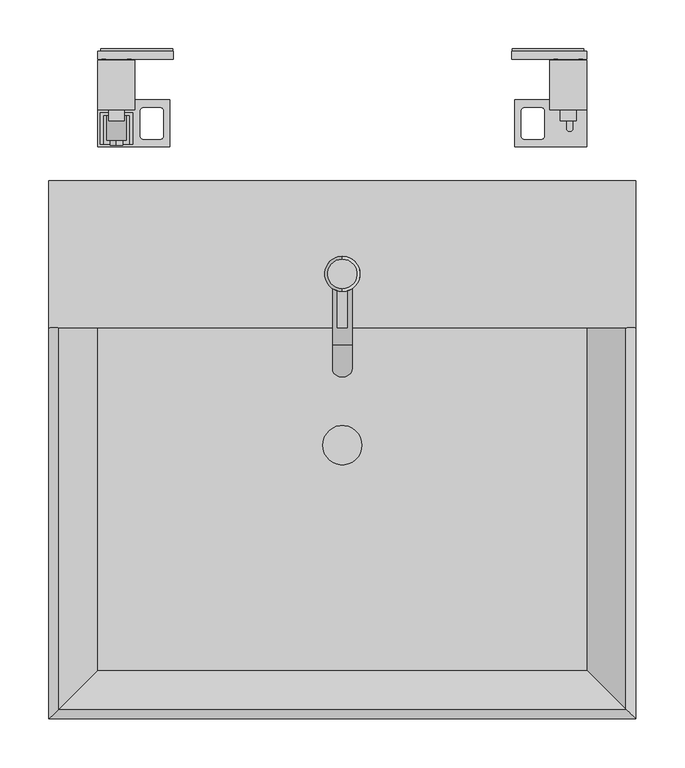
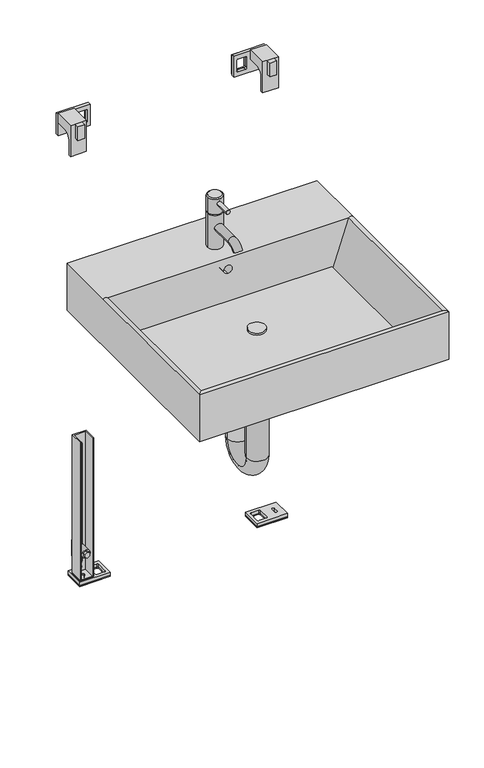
"""IFC4 building model written with IfcOpenShell, lengths in millimetres: flow terminal geometry, nextVIT Waschtisch-Element Wasserzählerstrecke WZ2 Rotguss : nextVIT Waschtisch-Element Wasserzählerstrecke WZ2 Rotguss."""

from ifc_helpers import new_model, si_unit, point, frame, frame_2d, origin, origin_with_axes, place, context, project, spatial, polyline, circle_curve, ellipse_curve, trimmed, segment, composite_curve, outline, extrude, source, transform, mapped, element, save
from ifc_brep_helpers import plane_surface, cylinder_surface, revolved_surface, advanced_brep


def flow_terminal_0b231f3f(model_context):
    return source(origin(), model_context, "Body", "SolidModel", [
        advanced_brep(
        [(0.0, -245.0, 989.0), (0.0, -215.0, 989.0), (18.0, -230.0, 860.0), (-18.0, -230.0, 860.0), (-18.0, -230.0, 946.0), (0.0, -212.0, 946.0), (18.0, -230.0, 946.0), (18.0, -230.0, 986.0), (18.0, -230.0, 949.0), (0.0, -212.0, 949.0), (-18.0, -230.0, 949.0), (-18.0, -230.0, 986.0), (0.0, -212.0, 986.0), (0.0, -248.0, 946.0), (0.0, -248.0, 986.0), (0.0, -248.0, 949.0), (0.0, -245.0, 949.0), (0.0, -215.0, 949.0), (0.0, -245.0, 946.0), (0.0, -215.0, 946.0)],
        [
            (0, 1, circle_curve(frame((0.0, -230.0, 989.0), z_axis=(0.0, 0.0, 1.0), x_axis=(0.0, 1.0, 0.0)), 15.0)),
            (1, 0, circle_curve(frame((0.0, -230.0, 989.0), z_axis=(0.0, 0.0, 1.0), x_axis=(0.0, 1.0, 0.0)), 15.0)),
            (2, 3, circle_curve(frame((0.0, -230.0, 860.0), z_axis=(0.0, 0.0, -1.0), x_axis=(-1.0, 0.0, 0.0)), 18.0)),
            (3, 2, circle_curve(frame((0.0, -230.0, 860.0), z_axis=(0.0, 0.0, -1.0), x_axis=(-1.0, 0.0, 0.0)), 18.0)),
            (3, 4),
            (4, 5, circle_curve(frame((0.0, -230.0, 946.0), z_axis=(0.0, 0.0, -1.0), x_axis=(-1.0, 0.0, 0.0)), 18.0)),
            (5, 6, circle_curve(frame((0.0, -230.0, 946.0), z_axis=(0.0, 0.0, -1.0), x_axis=(-1.0, 0.0, 0.0)), 18.0)),
            (6, 2),
            (7, 8),
            (8, 9, circle_curve(frame((0.0, -230.0, 949.0), z_axis=(0.0, 0.0, 1.0), x_axis=(-1.0, 0.0, 0.0)), 18.0)),
            (9, 10, circle_curve(frame((0.0, -230.0, 949.0), z_axis=(0.0, 0.0, 1.0), x_axis=(-1.0, 0.0, 0.0)), 18.0)),
            (10, 11),
            (11, 12, circle_curve(frame((0.0, -230.0, 986.0), z_axis=(0.0, 0.0, -1.0), x_axis=(-1.0, 0.0, 0.0)), 18.0)),
            (12, 7, circle_curve(frame((0.0, -230.0, 986.0), z_axis=(0.0, 0.0, -1.0), x_axis=(-1.0, 0.0, 0.0)), 18.0)),
            (6, 13, circle_curve(frame((0.0, -230.0, 946.0), z_axis=(0.0, 0.0, -1.0), x_axis=(-1.0, 0.0, 0.0)), 18.0)),
            (13, 4, circle_curve(frame((0.0, -230.0, 946.0), z_axis=(0.0, 0.0, -1.0), x_axis=(-1.0, 0.0, 0.0)), 18.0)),
            (7, 14, circle_curve(frame((0.0, -230.0, 986.0), z_axis=(0.0, 0.0, -1.0), x_axis=(-1.0, 0.0, 0.0)), 18.0)),
            (14, 11, circle_curve(frame((0.0, -230.0, 986.0), z_axis=(0.0, 0.0, -1.0), x_axis=(-1.0, 0.0, 0.0)), 18.0)),
            (10, 15, circle_curve(frame((0.0, -230.0, 949.0), z_axis=(0.0, 0.0, 1.0), x_axis=(-1.0, 0.0, 0.0)), 18.0)),
            (15, 8, circle_curve(frame((0.0, -230.0, 949.0), z_axis=(0.0, 0.0, 1.0), x_axis=(-1.0, 0.0, 0.0)), 18.0)),
            (15, 16),
            (16, 17, circle_curve(frame((0.0, -230.0, 949.0), z_axis=(0.0, 0.0, 1.0), x_axis=(0.0, 1.0, 0.0)), 15.0)),
            (17, 9),
            (17, 16, circle_curve(frame((0.0, -230.0, 949.0), z_axis=(0.0, 0.0, 1.0), x_axis=(0.0, 1.0, 0.0)), 15.0)),
            (18, 13),
            (5, 19),
            (19, 18, circle_curve(frame((0.0, -230.0, 946.0), z_axis=(0.0, 0.0, -1.0), x_axis=(0.0, 1.0, 0.0)), 15.0)),
            (18, 19, circle_curve(frame((0.0, -230.0, 946.0), z_axis=(0.0, 0.0, -1.0), x_axis=(0.0, 1.0, 0.0)), 15.0)),
            (16, 18),
            (19, 17),
            (0, 14),
            (12, 1),
        ],
        [
            plane_surface(frame((-18.0, -230.0, 989.0), z_axis=(0.0, 0.0, 1.0), x_axis=(0.0, -1.0, 0.0))),
            plane_surface(frame((-18.0, -230.0, 860.0), z_axis=(0.0, 0.0, -1.0), x_axis=(0.0, 1.0, 0.0))),
            cylinder_surface(frame((0.0, -230.0, 860.0), z_axis=(0.0, 0.0, 1.0), x_axis=(-1.0, 0.0, 0.0)), 18.0),
            plane_surface(frame((0.0, -230.0, 949.0), z_axis=(0.0, 0.0, -1.0), x_axis=(0.0, 1.0, 0.0))),
            plane_surface(frame((0.0, -230.0, 946.0), z_axis=(0.0, 0.0, 1.0), x_axis=(0.0, 1.0, 0.0))),
            cylinder_surface(frame((0.0, -230.0, 2498.4), z_axis=(0.0, 0.0, -1.0), x_axis=(0.0, 1.0, 0.0)), 15.0),
            revolved_surface(polyline([(0.0, -215.0, 989.0), (0.0, -212.0, 986.0)]), (0.0, -230.0, 2498.4), (0.0, 0.0, -1.0)),
        ],
        [
            (0, [[1, 2]]),
            (1, [[3, 4]]),
            (2, [[-4, 5, 6, 7, 8]]),
            (2, [[9, 10, 11, 12, 13, 14]]),
            (2, [[-3, -8, 15, 16, -5]]),
            (2, [[-9, 17, 18, -12, 19, 20]]),
            (3, [[21, 22, 23, -10, -20]]),
            (3, [[-21, -19, -11, -23, 24]]),
            (4, [[25, -15, -7, 26, 27]]),
            (4, [[-25, 28, -26, -6, -16]]),
            (5, [[-22, 29, -27, 30]]),
            (5, [[-24, -30, -28, -29]]),
            (6, [[31, -17, -14, 32, -1]]),
            (6, [[-31, -2, -32, -13, -18]]),
        ],
    ),
        advanced_brep(
        [(10.0, -230.0, 914.1831887), (-10.0, -230.0, 914.1831887), (10.0, -302.3523429, 914.1831887), (-10.0, -302.3523429, 914.1831887), (10.0, -327.1123284, 901.122584), (-10.0, -327.1123284, 901.122584)],
        [
            (0, 1, circle_curve(frame((0.0, -230.0, 914.1831887), z_axis=(0.0, 1.0, 0.0), x_axis=(-1.0, 0.0, 0.0)), 10.0)),
            (1, 0, circle_curve(frame((0.0, -230.0, 914.1831887), z_axis=(0.0, 1.0, 0.0), x_axis=(-1.0, 0.0, 0.0)), 10.0)),
            (0, 2),
            (2, 3, circle_curve(frame((0.0, -302.3523429, 914.1831887), z_axis=(0.0, 1.0, 0.0), x_axis=(-1.0, 0.0, 0.0)), 10.0)),
            (3, 1),
            (3, 2, circle_curve(frame((0.0, -302.3523429, 914.1831887), z_axis=(0.0, 1.0, 0.0), x_axis=(-1.0, 0.0, 0.0)), 10.0)),
            (4, 5, circle_curve(frame((0.0, -327.1123284, 901.122584), z_axis=(0.0, -0.5646465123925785, -0.8253328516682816), x_axis=(-1.0, 0.0, 0.0)), 10.0)),
            (5, 4, circle_curve(frame((0.0, -327.1123284, 901.122584), z_axis=(0.0, -0.5646465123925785, -0.8253328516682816), x_axis=(-1.0, 0.0, 0.0)), 10.0)),
            (5, 3, circle_curve(frame((-10.0, -302.3523429, 884.1831887), z_axis=(-1.0, 0.0, 0.0), x_axis=(0.0, 0.0, 1.0)), 30.0)),
            (2, 4, circle_curve(frame((10.0, -302.3523429, 884.1831887), z_axis=(1.0, 0.0, 0.0), x_axis=(0.0, 0.0, 1.0)), 30.0)),
        ],
        [
            plane_surface(frame((0.0, -230.0, 914.1831887), z_axis=(0.0, 1.0, 0.0), x_axis=(-1.0, 0.0, 0.0))),
            cylinder_surface(frame((0.0, -230.0, 914.1831887), z_axis=(0.0, 1.0, 0.0), x_axis=(-1.0, 0.0, 0.0)), 10.0),
            plane_surface(frame((0.0, -327.1123284, 901.122584), z_axis=(0.0, -0.5646465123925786, -0.8253328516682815), x_axis=(-1.0, 0.0, 0.0))),
            revolved_surface(trimmed(ellipse_curve(frame((0.0, -302.3523429, 914.1831887), z_axis=(0.0, 1.0, 0.0), x_axis=(-1.0, 0.0, 0.0)), 10.0, 10.0), [point((10.0, -302.3523429, 914.1831887))], [point((-10.0, -302.3523429, 914.1831887))], True, "CARTESIAN"), (0.0, -302.3523429, 884.1831887), (1.0, 0.0, 0.0)),
            revolved_surface(trimmed(ellipse_curve(frame((0.0, -302.3523429, 914.1831887), z_axis=(0.0, 1.0, 0.0), x_axis=(-1.0, 0.0, 0.0)), 10.0, 10.0), [point((-10.0, -302.3523429, 914.1831887))], [point((10.0, -302.3523429, 914.1831887))], True, "CARTESIAN"), (0.0, -302.3523429, 884.1831887), (1.0, 0.0, 0.0)),
        ],
        [
            (0, [[1, 2]]),
            (1, [[-1, 3, 4, 5]]),
            (1, [[-2, -5, 6, -3]]),
            (2, [[7, 8]]),
            (3, [[9, -4, 10, -8]]),
            (4, [[-10, -6, -9, -7]]),
        ],
    ),
        extrude(outline(composite_curve([segment(trimmed(circle_curve(frame_2d((975.4905764, 0.0)), 5.0), [point((975.4905764, -5.0))], [point((975.4905764, 5.0))], False, "CARTESIAN"), True, "CONTINUOUS"), segment(trimmed(circle_curve(frame_2d((975.4905764, 0.0)), 5.0), [point((975.4905764, 5.0))], [point((975.4905764, -5.0))], False, "CARTESIAN"), True, "CONTINUOUS")], self_intersect=False)), frame((0.0, -285.0, 0.0), z_axis=(0.0, 1.0, 0.0), x_axis=(0.0, 0.0, 1.0)), (0.0, 0.0, 1.0), 55.0),
        extrude(outline(composite_curve([segment(trimmed(circle_curve(frame_2d((0.0, -405.0)), 20.0), [point((-20.0, -405.0))], [point((20.0, -405.0))], False, "CARTESIAN"), True, "CONTINUOUS"), segment(trimmed(circle_curve(frame_2d((0.0, -405.0)), 20.0), [point((20.0, -405.0))], [point((-20.0, -405.0))], False, "CARTESIAN"), True, "CONTINUOUS")], self_intersect=False)), frame((0.0, 0.0, 750.0), z_axis=(0.0, 0.0, 1.0), x_axis=(1.0, 0.0, 0.0)), (0.0, 0.0, 1.0), 5.0),
        advanced_brep(
        [(-25.0, -405.0, 740.0), (25.0, -405.0, 740.0), (-25.0, -405.0, 433.2), (25.0, -405.0, 433.2), (25.0, -325.0, 433.2), (-25.0, -325.0, 433.2), (-25.0, -325.0, 483.2), (25.0, -325.0, 483.2), (25.0, -285.0, 523.2), (-25.0, -285.0, 523.2), (-25.0, -135.0, 523.2), (25.0, -135.0, 523.2)],
        [
            (0, 1, circle_curve(frame((0.0, -405.0, 740.0), z_axis=(0.0, 0.0, 1.0), x_axis=(1.0, 0.0, 0.0)), 25.0)),
            (1, 0, circle_curve(frame((0.0, -405.0, 740.0), z_axis=(0.0, 0.0, 1.0), x_axis=(1.0, 0.0, 0.0)), 25.0)),
            (0, 2),
            (2, 3, circle_curve(frame((0.0, -405.0, 433.2), z_axis=(0.0, 0.0, 1.0), x_axis=(1.0, 0.0, 0.0)), 25.0)),
            (3, 1),
            (3, 2, circle_curve(frame((0.0, -405.0, 433.2), z_axis=(0.0, 0.0, 1.0), x_axis=(1.0, 0.0, 0.0)), 25.0)),
            (4, 3, circle_curve(frame((25.0, -365.0, 433.2), z_axis=(-1.0, 0.0, 0.0), x_axis=(0.0, -1.0, 0.0)), 40.0)),
            (2, 5, circle_curve(frame((-25.0, -365.0, 433.2), z_axis=(1.0, 0.0, 0.0), x_axis=(0.0, -1.0, 0.0)), 40.0)),
            (5, 4, circle_curve(frame((0.0, -325.0, 433.2), z_axis=(0.0, 0.0, -1.0), x_axis=(1.0, 0.0, 0.0)), 25.0)),
            (4, 5, circle_curve(frame((0.0, -325.0, 433.2), z_axis=(0.0, 0.0, -1.0), x_axis=(1.0, 0.0, 0.0)), 25.0)),
            (5, 6),
            (6, 7, circle_curve(frame((0.0, -325.0, 483.2), z_axis=(0.0, 0.0, -1.0), x_axis=(1.0, 0.0, 0.0)), 25.0)),
            (7, 4),
            (7, 6, circle_curve(frame((0.0, -325.0, 483.2), z_axis=(0.0, 0.0, -1.0), x_axis=(1.0, 0.0, 0.0)), 25.0)),
            (8, 7, circle_curve(frame((25.0, -285.0, 483.2), z_axis=(1.0, 0.0, 0.0), x_axis=(0.0, -1.0, 0.0)), 40.0)),
            (6, 9, circle_curve(frame((-25.0, -285.0, 483.2), z_axis=(-1.0, 0.0, 0.0), x_axis=(0.0, -1.0, 0.0)), 40.0)),
            (9, 8, circle_curve(frame((0.0, -285.0, 523.2), z_axis=(0.0, -1.0, 0.0), x_axis=(1.0, 0.0, 0.0)), 25.0)),
            (8, 9, circle_curve(frame((0.0, -285.0, 523.2), z_axis=(0.0, -1.0, 0.0), x_axis=(1.0, 0.0, 0.0)), 25.0)),
            (10, 11, circle_curve(frame((0.0, -135.0, 523.2), z_axis=(0.0, 1.0, 0.0), x_axis=(1.0, 0.0, 0.0)), 25.0)),
            (11, 10, circle_curve(frame((0.0, -135.0, 523.2), z_axis=(0.0, 1.0, 0.0), x_axis=(1.0, 0.0, 0.0)), 25.0)),
            (9, 10),
            (11, 8),
        ],
        [
            plane_surface(frame((0.0, -405.0, 740.0), z_axis=(0.0, 0.0, 1.0), x_axis=(1.0, 0.0, 0.0))),
            cylinder_surface(frame((0.0, -405.0, 740.0), z_axis=(0.0, 0.0, 1.0), x_axis=(1.0, 0.0, 0.0)), 25.0),
            revolved_surface(trimmed(ellipse_curve(frame((0.0, -405.0, 433.2), z_axis=(0.0, 0.0, 1.0), x_axis=(1.0, 0.0, 0.0)), 25.0, 25.0), [point((-25.0, -405.0, 433.2))], [point((25.0, -405.0, 433.2))], True, "CARTESIAN"), (0.0, -365.0, 433.2), (1.0, 0.0, 0.0)),
            revolved_surface(trimmed(ellipse_curve(frame((0.0, -405.0, 433.2), z_axis=(0.0, 0.0, 1.0), x_axis=(1.0, 0.0, 0.0)), 25.0, 25.0), [point((25.0, -405.0, 433.2))], [point((-25.0, -405.0, 433.2))], True, "CARTESIAN"), (0.0, -365.0, 433.2), (1.0, 0.0, 0.0)),
            cylinder_surface(frame((0.0, -325.0, 433.2), z_axis=(0.0, 0.0, -1.0), x_axis=(1.0, 0.0, 0.0)), 25.0),
            revolved_surface(trimmed(ellipse_curve(frame((0.0, -325.0, 483.2), z_axis=(0.0, 0.0, -1.0), x_axis=(1.0, 0.0, 0.0)), 25.0, 25.0), [point((-25.0, -325.0, 483.2))], [point((25.0, -325.0, 483.2))], True, "CARTESIAN"), (0.0, -285.0, 483.2), (-1.0, 0.0, 0.0)),
            revolved_surface(trimmed(ellipse_curve(frame((0.0, -325.0, 483.2), z_axis=(0.0, 0.0, -1.0), x_axis=(1.0, 0.0, 0.0)), 25.0, 25.0), [point((25.0, -325.0, 483.2))], [point((-25.0, -325.0, 483.2))], True, "CARTESIAN"), (0.0, -285.0, 483.2), (-1.0, 0.0, 0.0)),
            plane_surface(frame((0.0, -135.0, 523.2), z_axis=(0.0, 1.0, 0.0), x_axis=(1.0, 0.0, 0.0))),
            cylinder_surface(frame((0.0, -285.0, 523.2), z_axis=(0.0, -1.0, 0.0), x_axis=(1.0, 0.0, 0.0)), 25.0),
        ],
        [
            (0, [[1, 2]]),
            (1, [[-1, 3, 4, 5]]),
            (1, [[-2, -5, 6, -3]]),
            (2, [[7, -4, 8, 9]]),
            (3, [[-8, -6, -7, 10]]),
            (4, [[-9, 11, 12, 13]]),
            (4, [[-10, -13, 14, -11]]),
            (5, [[15, -12, 16, 17]]),
            (6, [[-16, -14, -15, 18]]),
            (7, [[19, 20]]),
            (8, [[-17, 21, -20, 22]]),
            (8, [[-18, -22, -19, -21]]),
        ],
    ),
        advanced_brep(
        [(-300.0, -135.0, 860.0), (-300.0, -135.0, 740.0), (-300.0, -685.0, 740.0), (-300.0, -685.0, 860.0), (-300.0, -285.0, 860.0), (300.0, -135.0, 860.0), (300.0, -285.0, 860.0), (300.0, -685.0, 860.0), (300.0, -685.0, 740.0), (300.0, -135.0, 740.0), (-290.0, -285.0, 860.0), (290.0, -285.0, 860.0), (-250.0, -285.0, 740.0), (250.0, -285.0, 740.0), (0.0, -285.0, 840.3782299), (0.0, -285.0, 820.3782299), (-250.0, -635.0, 740.0), (250.0, -635.0, 740.0), (-290.0, -675.0, 860.0), (290.0, -675.0, 860.0), (0.0, -177.2094326, 840.3782299), (0.0, -177.2094326, 820.3782299)],
        [
            (0, 1),
            (1, 2),
            (2, 3),
            (3, 4),
            (4, 0),
            (5, 6),
            (6, 7),
            (7, 8),
            (8, 9),
            (9, 5),
            (4, 10),
            (10, 11),
            (11, 6),
            (5, 0),
            (10, 12),
            (12, 13),
            (13, 11),
            (14, 15, circle_curve(frame((0.0, -285.0, 830.3782299), z_axis=(0.0, 1.0, 0.0), x_axis=(0.0, 0.0, -1.0)), 10.0)),
            (15, 14, circle_curve(frame((0.0, -285.0, 830.3782299), z_axis=(0.0, 1.0, 0.0), x_axis=(0.0, 0.0, -1.0)), 10.0)),
            (1, 9),
            (8, 2),
            (12, 16),
            (16, 17),
            (17, 13),
            (4, 10, circle_curve(frame((-295.0, -285.0, 852.6162401), z_axis=(0.0, 1.0, 0.0), x_axis=(1.0, 0.0, 0.0)), 8.9173937)),
            (10, 18),
            (18, 16),
            (7, 3),
            (18, 19),
            (19, 17),
            (11, 6, circle_curve(frame((295.0, -285.0, 852.6162401), z_axis=(0.0, 1.0, 0.0), x_axis=(-1.0, 0.0, 0.0)), 8.9173937)),
            (19, 11),
            (3, 18, ellipse_curve(frame((-295.0, -680.0, 852.6162401), z_axis=(-0.7071067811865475, 0.7071067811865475, 0.0), x_axis=(0.7071067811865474, 0.7071067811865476, 0.0)), 12.6110991, 8.9173937)),
            (7, 19, ellipse_curve(frame((295.0, -680.0, 852.6162401), z_axis=(-0.7071067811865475, -0.7071067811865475, 0.0), x_axis=(-0.7071067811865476, 0.7071067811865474, 0.0)), 12.6110991, 8.9173937)),
            (20, 21, circle_curve(frame((0.0, -177.2094326, 830.3782299), z_axis=(0.0, -1.0, 0.0), x_axis=(0.0, 0.0, -1.0)), 10.0)),
            (21, 20, circle_curve(frame((0.0, -177.2094326, 830.3782299), z_axis=(0.0, -1.0, 0.0), x_axis=(0.0, 0.0, -1.0)), 10.0)),
            (21, 15),
            (14, 20),
        ],
        [
            plane_surface(frame((-300.0, -285.0, 860.0), z_axis=(-1.0, 0.0, 0.0), x_axis=(0.0, 1.0, 0.0))),
            plane_surface(frame((300.0, -285.0, 860.0), z_axis=(1.0, 0.0, 0.0), x_axis=(0.0, -1.0, 0.0))),
            plane_surface(frame((300.0, -135.0, 860.0), z_axis=(0.0, 0.0, 1.0), x_axis=(-1.0, 0.0, 0.0))),
            plane_surface(frame((300.0, -285.0, 860.0), z_axis=(0.0, -1.0, 0.0), x_axis=(-1.0, 0.0, 0.0))),
            plane_surface(frame((300.0, -285.0, 740.0), z_axis=(0.0, 0.0, -1.0), x_axis=(-1.0, 0.0, 0.0))),
            plane_surface(frame((300.0, -135.0, 740.0), z_axis=(0.0, 1.0, 0.0), x_axis=(-1.0, 0.0, 0.0))),
            plane_surface(frame((-300.0, -285.0, 800.0), z_axis=(0.0, 1.0, 0.0), x_axis=(0.0, 0.0, 1.0))),
            plane_surface(frame((-290.0, -285.0, 860.0), z_axis=(0.9486832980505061, 0.0, 0.31622776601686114), x_axis=(0.0, -1.0, 0.0))),
            plane_surface(frame((-300.0, -685.0, 740.0), z_axis=(0.0, -1.0, 0.0), x_axis=(1.0, 0.0, 0.0))),
            plane_surface(frame((-290.0, -675.0, 860.0), z_axis=(0.0, 0.9486832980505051, 0.31622776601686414), x_axis=(1.0, 0.0, 0.0))),
            plane_surface(frame((300.0, -285.0, 800.0), z_axis=(0.0, 1.0, 0.0), x_axis=(0.0, 0.0, 1.0))),
            plane_surface(frame((290.0, -675.0, 860.0), z_axis=(-0.9486832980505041, 0.0, 0.31622776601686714), x_axis=(0.0, 1.0, 0.0))),
            cylinder_surface(frame((-295.0, -285.0, 852.6162401), z_axis=(0.0, 1.0, 0.0), x_axis=(1.0, 0.0, 0.0)), 8.9173937),
            cylinder_surface(frame((-300.0, -680.0, 852.6162401), z_axis=(-1.0, 0.0, 0.0), x_axis=(0.0, 1.0, 0.0)), 8.9173937),
            cylinder_surface(frame((295.0, -685.0, 852.6162401), z_axis=(0.0, -1.0, 0.0), x_axis=(-1.0, 0.0, 0.0)), 8.9173937),
            plane_surface(frame((0.0, -177.2094326, 820.3782299), z_axis=(0.0, -1.0, 0.0), x_axis=(-1.0, 0.0, 0.0))),
            revolved_surface(polyline([(0.0, -177.2094326, 820.3782299), (0.0, -285.0, 820.3782299)]), (0.0, -285.0, 830.3782299), (0.0, 1.0, 0.0)),
        ],
        [
            (0, [[1, 2, 3, 4, 5]]),
            (1, [[6, 7, 8, 9, 10]]),
            (2, [[-5, 11, 12, 13, -6, 14]]),
            (3, [[-12, 15, 16, 17], [18, 19]]),
            (4, [[20, -9, 21, -2], [22, 23, 24, -16]]),
            (5, [[-1, -14, -10, -20]]),
            (6, [[25, -11]]),
            (7, [[26, 27, -22, -15]]),
            (8, [[-3, -21, -8, 28]]),
            (9, [[-27, 29, 30, -23]]),
            (10, [[31, -13]]),
            (11, [[-24, -30, 32, -17]]),
            (12, [[-25, -4, 33, -26]]),
            (13, [[-28, 34, -29, -33]]),
            (14, [[-31, -32, -34, -7]]),
            (15, [[35, 36]]),
            (16, [[-36, 37, -18, 38]]),
            (16, [[-35, -38, -19, -37]]),
        ],
    ),
        extrude(outline(polyline([(250.0, -285.0), (250.0, -635.0), (-250.0, -635.0), (-250.0, -285.0), (250.0, -285.0)])), frame((0.0, 0.0, 740.0), z_axis=(0.0, 0.0, 1.0), x_axis=(1.0, 0.0, 0.0)), (0.0, 0.0, 1.0), 10.0),
        extrude(outline(polyline([(176.5, -52.0), (250.0, -52.0), (250.0, -100.0), (176.5, -100.0), (176.5, -52.0)]), holes=[composite_curve([segment(trimmed(circle_curve(frame_2d((186.0, -89.0)), 3.0), [point((183.0, -89.0))], [point((186.0, -92.0))], True, "CARTESIAN"), True, "CONTINUOUS"), segment(polyline([(186.0, -92.0), (203.5, -92.0)]), True, "CONTINUOUS"), segment(trimmed(circle_curve(frame_2d((203.5, -89.0)), 3.0), [point((203.5, -92.0))], [point((206.5, -89.0))], True, "CARTESIAN"), True, "CONTINUOUS"), segment(polyline([(206.5, -89.0), (206.5, -63.0)]), True, "CONTINUOUS"), segment(trimmed(circle_curve(frame_2d((203.5, -63.0)), 3.0), [point((206.5, -63.0))], [point((203.5, -60.0))], True, "CARTESIAN"), True, "CONTINUOUS"), segment(polyline([(203.5, -60.0), (186.0, -60.0)]), True, "CONTINUOUS"), segment(trimmed(circle_curve(frame_2d((186.0, -63.0)), 3.0), [point((186.0, -60.0))], [point((183.0, -63.0))], True, "CARTESIAN"), True, "CONTINUOUS"), segment(polyline([(183.0, -63.0), (183.0, -89.0)]), True, "CONTINUOUS")], self_intersect=False)]), origin_with_axes(), (0.0, 0.0, 1.0), 2.5),
        extrude(outline(polyline([(176.5, -52.0), (250.0, -52.0), (250.0, -100.0), (176.5, -100.0), (176.5, -52.0)]), holes=[composite_curve([segment(trimmed(circle_curve(frame_2d((186.0, -89.0)), 3.0), [point((183.0, -89.0))], [point((186.0, -92.0))], True, "CARTESIAN"), True, "CONTINUOUS"), segment(polyline([(186.0, -92.0), (203.5, -92.0)]), True, "CONTINUOUS"), segment(trimmed(circle_curve(frame_2d((203.5, -89.0)), 3.0), [point((203.5, -92.0))], [point((206.5, -89.0))], True, "CARTESIAN"), True, "CONTINUOUS"), segment(polyline([(206.5, -89.0), (206.5, -63.0)]), True, "CONTINUOUS"), segment(trimmed(circle_curve(frame_2d((203.5, -63.0)), 3.0), [point((206.5, -63.0))], [point((203.5, -60.0))], True, "CARTESIAN"), True, "CONTINUOUS"), segment(polyline([(203.5, -60.0), (186.0, -60.0)]), True, "CONTINUOUS"), segment(trimmed(circle_curve(frame_2d((186.0, -63.0)), 3.0), [point((186.0, -60.0))], [point((183.0, -63.0))], True, "CARTESIAN"), True, "CONTINUOUS"), segment(polyline([(183.0, -63.0), (183.0, -89.0)]), True, "CONTINUOUS")], self_intersect=False), composite_curve([segment(trimmed(circle_curve(frame_2d((232.45, -71.0)), 3.25), [point((235.7, -71.0))], [point((229.2, -71.0))], True, "CARTESIAN"), True, "CONTINUOUS"), segment(polyline([(229.2, -71.0), (229.2, -81.0)]), True, "CONTINUOUS"), segment(trimmed(circle_curve(frame_2d((232.45, -81.0)), 3.25), [point((229.2, -81.0))], [point((235.7, -81.0))], True, "CARTESIAN"), True, "CONTINUOUS"), segment(polyline([(235.7, -81.0), (235.7, -71.0)]), True, "CONTINUOUS")], self_intersect=False)]), frame((0.0, 0.0, 2.5), z_axis=(0.0, 0.0, 1.0), x_axis=(1.0, 0.0, 0.0)), (0.0, 0.0, 1.0), 8.0),
        extrude(outline(polyline([(-176.5, -52.0), (-176.5, -100.0), (-250.0, -100.0), (-250.0, -52.0), (-176.5, -52.0)]), holes=[composite_curve([segment(polyline([(-183.0, -89.0), (-183.0, -63.0)]), True, "CONTINUOUS"), segment(trimmed(circle_curve(frame_2d((-186.0, -63.0)), 3.0), [point((-183.0, -63.0))], [point((-186.0, -60.0))], True, "CARTESIAN"), True, "CONTINUOUS"), segment(polyline([(-186.0, -60.0), (-203.5, -60.0)]), True, "CONTINUOUS"), segment(trimmed(circle_curve(frame_2d((-203.5, -63.0)), 3.0), [point((-203.5, -60.0))], [point((-206.5, -63.0))], True, "CARTESIAN"), True, "CONTINUOUS"), segment(polyline([(-206.5, -63.0), (-206.5, -89.0)]), True, "CONTINUOUS"), segment(trimmed(circle_curve(frame_2d((-203.5, -89.0)), 3.0), [point((-206.5, -89.0))], [point((-203.5, -92.0))], True, "CARTESIAN"), True, "CONTINUOUS"), segment(polyline([(-203.5, -92.0), (-186.0, -92.0)]), True, "CONTINUOUS"), segment(trimmed(circle_curve(frame_2d((-186.0, -89.0)), 3.0), [point((-186.0, -92.0))], [point((-183.0, -89.0))], True, "CARTESIAN"), True, "CONTINUOUS")], self_intersect=False)]), origin_with_axes(), (0.0, 0.0, 1.0), 2.5),
        extrude(outline(polyline([(-176.5, -52.0), (-176.5, -100.0), (-250.0, -100.0), (-250.0, -52.0), (-176.5, -52.0)]), holes=[composite_curve([segment(polyline([(-183.0, -89.0), (-183.0, -63.0)]), True, "CONTINUOUS"), segment(trimmed(circle_curve(frame_2d((-186.0, -63.0)), 3.0), [point((-183.0, -63.0))], [point((-186.0, -60.0))], True, "CARTESIAN"), True, "CONTINUOUS"), segment(polyline([(-186.0, -60.0), (-203.5, -60.0)]), True, "CONTINUOUS"), segment(trimmed(circle_curve(frame_2d((-203.5, -63.0)), 3.0), [point((-203.5, -60.0))], [point((-206.5, -63.0))], True, "CARTESIAN"), True, "CONTINUOUS"), segment(polyline([(-206.5, -63.0), (-206.5, -89.0)]), True, "CONTINUOUS"), segment(trimmed(circle_curve(frame_2d((-203.5, -89.0)), 3.0), [point((-206.5, -89.0))], [point((-203.5, -92.0))], True, "CARTESIAN"), True, "CONTINUOUS"), segment(polyline([(-203.5, -92.0), (-186.0, -92.0)]), True, "CONTINUOUS"), segment(trimmed(circle_curve(frame_2d((-186.0, -89.0)), 3.0), [point((-186.0, -92.0))], [point((-183.0, -89.0))], True, "CARTESIAN"), True, "CONTINUOUS")], self_intersect=False), composite_curve([segment(polyline([(-235.7, -71.0), (-235.7, -81.0)]), True, "CONTINUOUS"), segment(trimmed(circle_curve(frame_2d((-232.45, -81.0)), 3.25), [point((-235.7, -81.0))], [point((-229.2, -81.0))], True, "CARTESIAN"), True, "CONTINUOUS"), segment(polyline([(-229.2, -81.0), (-229.2, -71.0)]), True, "CONTINUOUS"), segment(trimmed(circle_curve(frame_2d((-232.45, -71.0)), 3.25), [point((-229.2, -71.0))], [point((-235.7, -71.0))], True, "CARTESIAN"), True, "CONTINUOUS")], self_intersect=False)]), frame((0.0, 0.0, 2.5), z_axis=(0.0, 0.0, 1.0), x_axis=(1.0, 0.0, 0.0)), (0.0, 0.0, 1.0), 8.0),
        extrude(outline(polyline([(1141.522581, 173.5), (1093.522581, 173.5), (1093.522581, 247.0), (1141.522581, 247.0), (1141.522581, 173.5)]), holes=[composite_curve([segment(polyline([(1104.522581, 180.0), (1130.522581, 180.0)]), True, "CONTINUOUS"), segment(trimmed(circle_curve(frame_2d((1130.522581, 183.0)), 3.0), [point((1130.522581, 180.0))], [point((1133.522581, 183.0))], True, "CARTESIAN"), True, "CONTINUOUS"), segment(polyline([(1133.522581, 183.0), (1133.522581, 200.5)]), True, "CONTINUOUS"), segment(trimmed(circle_curve(frame_2d((1130.522581, 200.5)), 3.0), [point((1133.522581, 200.5))], [point((1130.522581, 203.5))], True, "CARTESIAN"), True, "CONTINUOUS"), segment(polyline([(1130.522581, 203.5), (1104.522581, 203.5)]), True, "CONTINUOUS"), segment(trimmed(circle_curve(frame_2d((1104.522581, 200.5)), 3.0), [point((1104.522581, 203.5))], [point((1101.522581, 200.5))], True, "CARTESIAN"), True, "CONTINUOUS"), segment(polyline([(1101.522581, 200.5), (1101.522581, 183.0)]), True, "CONTINUOUS"), segment(trimmed(circle_curve(frame_2d((1104.522581, 183.0)), 3.0), [point((1101.522581, 183.0))], [point((1104.522581, 180.0))], True, "CARTESIAN"), True, "CONTINUOUS")], self_intersect=False)]), frame((0.0, -2.5, 0.0), z_axis=(0.0, 1.0, 0.0), x_axis=(0.0, 0.0, 1.0)), (0.0, 0.0, 1.0), 2.5),
        extrude(outline(polyline([(1141.522581, -173.5), (1141.522581, -247.0), (1093.522581, -247.0), (1093.522581, -173.5), (1141.522581, -173.5)]), holes=[composite_curve([segment(trimmed(circle_curve(frame_2d((1104.522581, -183.0)), 3.0), [point((1104.522581, -180.0))], [point((1101.522581, -183.0))], True, "CARTESIAN"), True, "CONTINUOUS"), segment(polyline([(1101.522581, -183.0), (1101.522581, -200.5)]), True, "CONTINUOUS"), segment(trimmed(circle_curve(frame_2d((1104.522581, -200.5)), 3.0), [point((1101.522581, -200.5))], [point((1104.522581, -203.5))], True, "CARTESIAN"), True, "CONTINUOUS"), segment(polyline([(1104.522581, -203.5), (1130.522581, -203.5)]), True, "CONTINUOUS"), segment(trimmed(circle_curve(frame_2d((1130.522581, -200.5)), 3.0), [point((1130.522581, -203.5))], [point((1133.522581, -200.5))], True, "CARTESIAN"), True, "CONTINUOUS"), segment(polyline([(1133.522581, -200.5), (1133.522581, -183.0)]), True, "CONTINUOUS"), segment(trimmed(circle_curve(frame_2d((1130.522581, -183.0)), 3.0), [point((1133.522581, -183.0))], [point((1130.522581, -180.0))], True, "CARTESIAN"), True, "CONTINUOUS"), segment(polyline([(1130.522581, -180.0), (1104.522581, -180.0)]), True, "CONTINUOUS")], self_intersect=False)]), frame((0.0, -2.5, 0.0), z_axis=(0.0, 1.0, 0.0), x_axis=(0.0, 0.0, 1.0)), (0.0, 0.0, 1.0), 2.5),
        advanced_brep(
        [(212.0, -11.5, 1124.0), (212.0, -36.0, 1124.0), (212.0, -56.0, 1104.0), (212.0, -56.0, 1069.0231613), (212.0, -62.0, 1069.0231613), (212.0, -62.0, 1148.0), (212.0, -11.5, 1148.0), (250.0, -11.5, 1124.0), (250.0, -11.5, 1148.0), (250.0, -62.0, 1148.0), (250.0, -62.0, 1069.0231613), (250.0, -56.0, 1069.0231613), (250.0, -56.0, 1104.0), (250.0, -36.0, 1124.0), (247.0, -11.5, 1124.0), (247.0, -11.5, 1144.0), (215.0, -11.5, 1144.0), (215.0, -11.5, 1124.0), (215.0, -56.0, 1104.0), (215.0, -56.0, 1144.0), (247.0, -56.0, 1144.0), (247.0, -56.0, 1104.0), (215.0, -36.0, 1124.0), (247.0, -36.0, 1124.0)],
        [
            (0, 1),
            (1, 2, circle_curve(frame((212.0, -36.0, 1104.0), z_axis=(1.0, 0.0, 0.0), x_axis=(0.0, 1.0, 0.0)), 20.0)),
            (2, 3),
            (3, 4),
            (4, 5),
            (5, 6),
            (6, 0),
            (7, 8),
            (8, 9),
            (9, 10),
            (10, 11),
            (11, 12),
            (12, 13, circle_curve(frame((250.0, -36.0, 1104.0), z_axis=(-1.0, 0.0, 0.0), x_axis=(0.0, 1.0, 0.0)), 20.0)),
            (13, 7),
            (6, 8),
            (7, 14),
            (14, 15),
            (15, 16),
            (16, 17),
            (17, 0),
            (5, 9),
            (4, 10),
            (3, 11),
            (2, 18),
            (18, 19),
            (19, 20),
            (20, 21),
            (21, 12),
            (1, 22),
            (22, 18, circle_curve(frame((215.0, -36.0, 1104.0), z_axis=(1.0, 0.0, 0.0), x_axis=(0.0, 1.0, 0.0)), 20.0)),
            (21, 23, circle_curve(frame((247.0, -36.0, 1104.0), z_axis=(-1.0, 0.0, 0.0), x_axis=(0.0, 1.0, 0.0)), 20.0)),
            (23, 13),
            (17, 22),
            (23, 14),
            (16, 19),
            (15, 20),
        ],
        [
            plane_surface(frame((212.0, -36.0, 1124.0), z_axis=(-1.0, 0.0, 0.0), x_axis=(0.0, -1.0, 0.0))),
            plane_surface(frame((250.0, -36.0, 1124.0), z_axis=(1.0, 0.0, 0.0), x_axis=(0.0, 1.0, 0.0))),
            plane_surface(frame((212.0, -11.5, 1148.0), z_axis=(0.0, 1.0, 0.0), x_axis=(1.0, 0.0, 0.0))),
            plane_surface(frame((212.0, -62.0, 1148.0), z_axis=(0.0, 0.0, 1.0), x_axis=(1.0, 0.0, 0.0))),
            plane_surface(frame((212.0, -62.0, 1069.0231613), z_axis=(0.0, -1.0, 0.0), x_axis=(1.0, 0.0, 0.0))),
            plane_surface(frame((212.0, -56.0, 1069.0231613), z_axis=(0.0, 0.0, -1.0), x_axis=(1.0, 0.0, 0.0))),
            plane_surface(frame((212.0, -56.0, 1104.0), z_axis=(0.0, 1.0, 0.0), x_axis=(1.0, 0.0, 0.0))),
            revolved_surface(polyline([(215.0, -16.0, 1104.0), (212.0, -16.0, 1104.0)]), (250.0, -36.0, 1104.0), (1.0, 0.0, 0.0)),
            revolved_surface(polyline([(250.0, -16.0, 1104.0), (247.0, -16.0, 1104.0)]), (250.0, -36.0, 1104.0), (1.0, 0.0, 0.0)),
            plane_surface(frame((212.0, -11.5, 1124.0), z_axis=(0.0, 0.0, -1.0), x_axis=(1.0, 0.0, 0.0))),
            plane_surface(frame((215.0, -56.0, 1144.0), z_axis=(1.0, 0.0, 0.0), x_axis=(0.0, 1.0, 0.0))),
            plane_surface(frame((247.0, -56.0, 1144.0), z_axis=(0.0, 0.0, -1.0), x_axis=(0.0, 1.0, 0.0))),
            plane_surface(frame((247.0, -56.0, 1102.9875977), z_axis=(-1.0, 0.0, 0.0), x_axis=(0.0, 1.0, 0.0))),
        ],
        [
            (0, [[1, 2, 3, 4, 5, 6, 7]]),
            (1, [[8, 9, 10, 11, 12, 13, 14]]),
            (2, [[-7, 15, -8, 16, 17, 18, 19, 20]]),
            (3, [[-6, 21, -9, -15]]),
            (4, [[-5, 22, -10, -21]]),
            (5, [[-4, 23, -11, -22]]),
            (6, [[-3, 24, 25, 26, 27, 28, -12, -23]]),
            (7, [[-2, 29, 30, -24]]),
            (8, [[-13, -28, 31, 32]]),
            (9, [[-1, -20, 33, -29]]),
            (9, [[-14, -32, 34, -16]]),
            (10, [[35, -25, -30, -33, -19]]),
            (11, [[-26, -35, -18, 36]]),
            (12, [[-36, -17, -34, -31, -27]]),
        ],
    ),
        extrude(outline(polyline([(1128.022581, 220.05), (1145.0, 220.05), (1145.0, 216.05), (1124.5225837, 216.05), (1124.5225837, 245.95), (1145.0, 245.95), (1145.0, 241.95), (1128.022581, 241.95), (1128.022581, 220.05)])), frame((0.0, -55.0, 0.0), z_axis=(0.0, 1.0, 0.0), x_axis=(0.0, 0.0, 1.0)), (0.0, 0.0, 1.0), 44.5),
        extrude(outline(polyline([(1144.022581, 250.0), (1144.022581, 173.0), (1091.022581, 173.0), (1091.022581, 250.0), (1144.022581, 250.0)]), holes=[composite_curve([segment(trimmed(circle_curve(frame_2d((1130.522581, 200.5)), 3.0), [point((1133.522581, 200.5))], [point((1130.522581, 203.5))], True, "CARTESIAN"), True, "CONTINUOUS"), segment(polyline([(1130.522581, 203.5), (1104.522581, 203.5)]), True, "CONTINUOUS"), segment(trimmed(circle_curve(frame_2d((1104.522581, 200.5)), 3.0), [point((1104.522581, 203.5))], [point((1101.522581, 200.5))], True, "CARTESIAN"), True, "CONTINUOUS"), segment(polyline([(1101.522581, 200.5), (1101.522581, 183.0)]), True, "CONTINUOUS"), segment(trimmed(circle_curve(frame_2d((1104.522581, 183.0)), 3.0), [point((1101.522581, 183.0))], [point((1104.522581, 180.0))], True, "CARTESIAN"), True, "CONTINUOUS"), segment(polyline([(1104.522581, 180.0), (1130.522581, 180.0)]), True, "CONTINUOUS"), segment(trimmed(circle_curve(frame_2d((1130.522581, 183.0)), 3.0), [point((1130.522581, 180.0))], [point((1133.522581, 183.0))], True, "CARTESIAN"), True, "CONTINUOUS"), segment(polyline([(1133.522581, 183.0), (1133.522581, 200.5)]), True, "CONTINUOUS")], self_intersect=False)]), frame((0.0, -10.5, 0.0), z_axis=(0.0, 1.0, 0.0), x_axis=(0.0, 0.0, 1.0)), (0.0, 0.0, 1.0), 8.0),
        extrude(outline(polyline([(223.0, -62.0), (239.0, -62.0), (239.0, -73.5), (223.0, -73.5), (223.0, -62.0)])), frame((0.0, 0.0, 1113.0), z_axis=(0.0, 0.0, 1.0), x_axis=(1.0, 0.0, 0.0)), (0.0, 0.0, 1.0), 35.0),
        advanced_brep(
        [(-212.0, -11.5, 1124.0), (-212.0, -11.5, 1148.0), (-212.0, -62.0, 1148.0), (-212.0, -62.0, 1069.0231613), (-212.0, -56.0, 1069.0231613), (-212.0, -56.0, 1104.0), (-212.0, -36.0, 1124.0), (-250.0, -11.5, 1124.0), (-250.0, -36.0, 1124.0), (-250.0, -56.0, 1104.0), (-250.0, -56.0, 1069.0231613), (-250.0, -62.0, 1069.0231613), (-250.0, -62.0, 1148.0), (-250.0, -11.5, 1148.0), (-215.0, -11.5, 1124.0), (-215.0, -11.5, 1144.0), (-247.0, -11.5, 1144.0), (-247.0, -11.5, 1124.0), (-247.0, -56.0, 1104.0), (-247.0, -56.0, 1144.0), (-215.0, -56.0, 1144.0), (-215.0, -56.0, 1104.0), (-215.0, -36.0, 1124.0), (-247.0, -36.0, 1124.0)],
        [
            (0, 1),
            (1, 2),
            (2, 3),
            (3, 4),
            (4, 5),
            (5, 6, circle_curve(frame((-212.0, -36.0, 1104.0), z_axis=(-1.0, 0.0, 0.0), x_axis=(0.0, 1.0, 0.0)), 20.0)),
            (6, 0),
            (7, 8),
            (8, 9, circle_curve(frame((-250.0, -36.0, 1104.0), z_axis=(1.0, 0.0, 0.0), x_axis=(0.0, 1.0, 0.0)), 20.0)),
            (9, 10),
            (10, 11),
            (11, 12),
            (12, 13),
            (13, 7),
            (0, 14),
            (14, 15),
            (15, 16),
            (16, 17),
            (17, 7),
            (13, 1),
            (12, 2),
            (11, 3),
            (10, 4),
            (9, 18),
            (18, 19),
            (19, 20),
            (20, 21),
            (21, 5),
            (21, 22, circle_curve(frame((-215.0, -36.0, 1104.0), z_axis=(-1.0, 0.0, 0.0), x_axis=(0.0, 1.0, 0.0)), 20.0)),
            (22, 6),
            (8, 23),
            (23, 18, circle_curve(frame((-247.0, -36.0, 1104.0), z_axis=(1.0, 0.0, 0.0), x_axis=(0.0, 1.0, 0.0)), 20.0)),
            (22, 14),
            (17, 23),
            (20, 15),
            (19, 16),
        ],
        [
            plane_surface(frame((-212.0, -11.5, 1124.0), z_axis=(1.0, 0.0, 0.0), x_axis=(0.0, 0.0, 1.0))),
            plane_surface(frame((-250.0, -11.5, 1124.0), z_axis=(-1.0, 0.0, 0.0), x_axis=(0.0, 0.0, -1.0))),
            plane_surface(frame((-212.0, -11.5, 1124.0), z_axis=(0.0, 1.0, 0.0), x_axis=(-1.0, 0.0, 0.0))),
            plane_surface(frame((-212.0, -11.5, 1148.0), z_axis=(0.0, 0.0, 1.0), x_axis=(-1.0, 0.0, 0.0))),
            plane_surface(frame((-212.0, -62.0, 1148.0), z_axis=(0.0, -1.0, 0.0), x_axis=(-1.0, 0.0, 0.0))),
            plane_surface(frame((-212.0, -62.0, 1069.0231613), z_axis=(0.0, 0.0, -1.0), x_axis=(-1.0, 0.0, 0.0))),
            plane_surface(frame((-212.0, -56.0, 1069.0231613), z_axis=(0.0, 1.0, 0.0), x_axis=(-1.0, 0.0, 0.0))),
            revolved_surface(polyline([(-215.0, -16.0, 1104.0), (-212.0, -16.0, 1104.0)]), (-250.0, -36.0, 1104.0), (-1.0, 0.0, 0.0)),
            revolved_surface(polyline([(-250.0, -16.0, 1104.0), (-247.0, -16.0, 1104.0)]), (-250.0, -36.0, 1104.0), (-1.0, 0.0, 0.0)),
            plane_surface(frame((-212.0, -36.0, 1124.0), z_axis=(0.0, 0.0, -1.0), x_axis=(-1.0, 0.0, 0.0))),
            plane_surface(frame((-215.0, -56.0, 1102.9875977), z_axis=(-1.0, 0.0, 0.0), x_axis=(0.0, 1.0, 0.0))),
            plane_surface(frame((-215.0, -56.0, 1144.0), z_axis=(0.0, 0.0, -1.0), x_axis=(0.0, 1.0, 0.0))),
            plane_surface(frame((-247.0, -56.0, 1144.0), z_axis=(1.0, 0.0, 0.0), x_axis=(0.0, 1.0, 0.0))),
        ],
        [
            (0, [[1, 2, 3, 4, 5, 6, 7]]),
            (1, [[8, 9, 10, 11, 12, 13, 14]]),
            (2, [[-1, 15, 16, 17, 18, 19, -14, 20]]),
            (3, [[-2, -20, -13, 21]]),
            (4, [[-3, -21, -12, 22]]),
            (5, [[-4, -22, -11, 23]]),
            (6, [[-5, -23, -10, 24, 25, 26, 27, 28]]),
            (7, [[-6, -28, 29, 30]]),
            (8, [[-9, 31, 32, -24]]),
            (9, [[-7, -30, 33, -15]]),
            (9, [[-8, -19, 34, -31]]),
            (10, [[35, -16, -33, -29, -27]]),
            (11, [[-26, 36, -17, -35]]),
            (12, [[-36, -25, -32, -34, -18]]),
        ],
    ),
        extrude(outline(polyline([(1128.022581, -220.05), (1128.022581, -241.95), (1145.0, -241.95), (1145.0, -245.95), (1124.5225837, -245.95), (1124.5225837, -216.05), (1145.0, -216.05), (1145.0, -220.05), (1128.022581, -220.05)])), frame((0.0, -55.0, 0.0), z_axis=(0.0, 1.0, 0.0), x_axis=(0.0, 0.0, 1.0)), (0.0, 0.0, 1.0), 44.5),
        extrude(outline(polyline([(1144.022581, -250.0), (1091.022581, -250.0), (1091.022581, -173.0), (1144.022581, -173.0), (1144.022581, -250.0)]), holes=[composite_curve([segment(polyline([(1133.522581, -200.5), (1133.522581, -183.0)]), True, "CONTINUOUS"), segment(trimmed(circle_curve(frame_2d((1130.522581, -183.0)), 3.0), [point((1133.522581, -183.0))], [point((1130.522581, -180.0))], True, "CARTESIAN"), True, "CONTINUOUS"), segment(polyline([(1130.522581, -180.0), (1104.522581, -180.0)]), True, "CONTINUOUS"), segment(trimmed(circle_curve(frame_2d((1104.522581, -183.0)), 3.0), [point((1104.522581, -180.0))], [point((1101.522581, -183.0))], True, "CARTESIAN"), True, "CONTINUOUS"), segment(polyline([(1101.522581, -183.0), (1101.522581, -200.5)]), True, "CONTINUOUS"), segment(trimmed(circle_curve(frame_2d((1104.522581, -200.5)), 3.0), [point((1101.522581, -200.5))], [point((1104.522581, -203.5))], True, "CARTESIAN"), True, "CONTINUOUS"), segment(polyline([(1104.522581, -203.5), (1130.522581, -203.5)]), True, "CONTINUOUS"), segment(trimmed(circle_curve(frame_2d((1130.522581, -200.5)), 3.0), [point((1130.522581, -203.5))], [point((1133.522581, -200.5))], True, "CARTESIAN"), True, "CONTINUOUS")], self_intersect=False)]), frame((0.0, -10.5, 0.0), z_axis=(0.0, 1.0, 0.0), x_axis=(0.0, 0.0, 1.0)), (0.0, 0.0, 1.0), 8.0),
        extrude(outline(polyline([(-223.0, -62.0), (-223.0, -73.5), (-239.0, -73.5), (-239.0, -62.0), (-223.0, -62.0)])), frame((0.0, 0.0, 1113.0), z_axis=(0.0, 0.0, 1.0), x_axis=(1.0, 0.0, 0.0)), (0.0, 0.0, 1.0), 35.0),
        advanced_brep(
        [(-244.6, -97.1, 363.5), (-244.6, -67.9, 363.5), (-217.4, -67.9, 363.5), (-217.4, -97.1, 363.5), (-214.4, -97.1, 363.5), (-214.4, -64.9, 363.5), (-247.6, -64.9, 363.5), (-247.6, -97.1, 363.5), (-244.6, -97.1, 13.5), (-247.6, -97.1, 13.5), (-247.6, -64.9, 13.5), (-214.4, -64.9, 13.5), (-214.4, -97.1, 13.5), (-217.4, -97.1, 13.5), (-217.4, -67.9, 13.5), (-244.6, -67.9, 13.5), (-226.5, -64.9, 23.6801435), (-235.5, -64.9, 23.6801435), (-226.0, -64.9, 37.7), (-226.0, -64.9, 335.5), (-236.0, -64.9, 335.5), (-236.0, -64.9, 37.7), (-235.5, -67.9, 23.6801435), (-226.5, -67.9, 23.6801435), (-226.0, -67.9, 335.5), (-226.0, -67.9, 37.7), (-236.0, -67.9, 37.7), (-236.0, -67.9, 335.5)],
        [
            (0, 1),
            (1, 2),
            (2, 3),
            (3, 4),
            (4, 5),
            (5, 6),
            (6, 7),
            (7, 0),
            (8, 9),
            (9, 10),
            (10, 11),
            (11, 12),
            (12, 13),
            (13, 14),
            (14, 15),
            (15, 8),
            (4, 12),
            (11, 5),
            (10, 6),
            (16, 17, circle_curve(frame((-231.0, -64.9, 23.6801435), z_axis=(0.0, -1.0, 0.0), x_axis=(-1.0, 0.0, 0.0)), 4.5)),
            (17, 16, circle_curve(frame((-231.0, -64.9, 23.6801435), z_axis=(0.0, -1.0, 0.0), x_axis=(-1.0, 0.0, 0.0)), 4.5)),
            (18, 19),
            (19, 20, circle_curve(frame((-231.0, -64.9, 335.5), z_axis=(0.0, -1.0, 0.0), x_axis=(-1.0, 0.0, 0.0)), 5.0)),
            (20, 21),
            (21, 18, circle_curve(frame((-231.0, -64.9, 37.7), z_axis=(0.0, -1.0, 0.0), x_axis=(-1.0, 0.0, 0.0)), 5.0)),
            (9, 7),
            (8, 0),
            (15, 1),
            (14, 2),
            (22, 23, circle_curve(frame((-231.0, -67.9, 23.6801435), z_axis=(0.0, 1.0, 0.0), x_axis=(-1.0, 0.0, 0.0)), 4.5)),
            (23, 22, circle_curve(frame((-231.0, -67.9, 23.6801435), z_axis=(0.0, 1.0, 0.0), x_axis=(-1.0, 0.0, 0.0)), 4.5)),
            (24, 25),
            (25, 26, circle_curve(frame((-231.0, -67.9, 37.7), z_axis=(0.0, 1.0, 0.0), x_axis=(-1.0, 0.0, 0.0)), 5.0)),
            (26, 27),
            (27, 24, circle_curve(frame((-231.0, -67.9, 335.5), z_axis=(0.0, 1.0, 0.0), x_axis=(-1.0, 0.0, 0.0)), 5.0)),
            (13, 3),
            (22, 17),
            (16, 23),
            (24, 19),
            (18, 25),
            (27, 20),
            (26, 21),
        ],
        [
            plane_surface(frame((-244.6, -97.1, 363.5), z_axis=(0.0, 0.0, 1.0), x_axis=(0.0, 1.0, 0.0))),
            plane_surface(frame((-244.6, -97.1, 13.5), z_axis=(0.0, 0.0, -1.0), x_axis=(0.0, -1.0, 0.0))),
            plane_surface(frame((-214.4, -97.1, 363.5), z_axis=(1.0, 0.0, 0.0), x_axis=(0.0, 0.0, -1.0))),
            plane_surface(frame((-214.4, -64.9, 363.5), z_axis=(0.0, 1.0, 0.0), x_axis=(0.0, 0.0, -1.0))),
            plane_surface(frame((-247.6, -64.9, 363.5), z_axis=(-1.0, 0.0, 0.0), x_axis=(0.0, 0.0, -1.0))),
            plane_surface(frame((-247.6, -97.1, 363.5), z_axis=(0.0, -1.0, 0.0), x_axis=(0.0, 0.0, -1.0))),
            plane_surface(frame((-244.6, -97.1, 363.5), z_axis=(1.0, 0.0, 0.0), x_axis=(0.0, 0.0, -1.0))),
            plane_surface(frame((-244.6, -67.9, 363.5), z_axis=(0.0, -1.0, 0.0), x_axis=(0.0, 0.0, -1.0))),
            plane_surface(frame((-217.4, -67.9, 363.5), z_axis=(-1.0, 0.0, 0.0), x_axis=(0.0, 0.0, -1.0))),
            plane_surface(frame((-217.4, -97.1, 363.5), z_axis=(0.0, -1.0, 0.0), x_axis=(0.0, 0.0, -1.0))),
            revolved_surface(polyline([(-235.5, -67.9, 23.6801435), (-235.5, -64.9, 23.6801435)]), (-231.0, -67.9, 23.6801435), (0.0, -1.0, 0.0)),
            plane_surface(frame((-226.0, -67.9, 37.7), z_axis=(-1.0, 0.0, 0.0), x_axis=(0.0, 1.0, 0.0))),
            revolved_surface(polyline([(-236.0, -67.9, 335.5), (-236.0, -64.9, 335.5)]), (-231.0, -67.9, 335.5), (0.0, -1.0, 0.0)),
            plane_surface(frame((-236.0, -67.9, 335.5), z_axis=(1.0, 0.0, 0.0), x_axis=(0.0, 1.0, 0.0))),
            revolved_surface(polyline([(-236.0, -67.9, 37.7), (-236.0, -64.9, 37.7)]), (-231.0, -67.9, 37.7), (0.0, -1.0, 0.0)),
        ],
        [
            (0, [[1, 2, 3, 4, 5, 6, 7, 8]]),
            (1, [[9, 10, 11, 12, 13, 14, 15, 16]]),
            (2, [[-5, 17, -12, 18]]),
            (3, [[-6, -18, -11, 19], [20, 21], [22, 23, 24, 25]]),
            (4, [[-7, -19, -10, 26]]),
            (5, [[-8, -26, -9, 27]]),
            (6, [[-1, -27, -16, 28]]),
            (7, [[-2, -28, -15, 29], [30, 31], [32, 33, 34, 35]]),
            (8, [[-3, -29, -14, 36]]),
            (9, [[-4, -36, -13, -17]]),
            (10, [[37, -20, 38, -30]]),
            (10, [[-37, -31, -38, -21]]),
            (11, [[39, -22, 40, -32]]),
            (12, [[-39, -35, 41, -23]]),
            (13, [[-41, -34, 42, -24]]),
            (14, [[-40, -25, -42, -33]]),
        ],
    ),
        extrude(outline(polyline([(-214.4, -97.1), (-247.6, -97.1), (-247.6, -64.9), (-214.4, -64.9), (-214.4, -97.1)]), holes=[composite_curve([segment(trimmed(circle_curve(frame_2d((-231.0, -81.9)), 2.5), [point((-228.5, -81.9))], [point((-233.5, -81.9))], True, "CARTESIAN"), True, "CONTINUOUS"), segment(trimmed(circle_curve(frame_2d((-231.0, -81.9)), 2.5), [point((-233.5, -81.9))], [point((-228.5, -81.9))], True, "CARTESIAN"), True, "CONTINUOUS")], self_intersect=False)]), frame((0.0, 0.0, 10.5), z_axis=(0.0, 0.0, 1.0), x_axis=(1.0, 0.0, 0.0)), (0.0, 0.0, 1.0), 3.0),
        extrude(outline(composite_curve([segment(trimmed(circle_curve(frame_2d((72.2, -231.0)), 4.0), [point((72.2, -235.0))], [point((72.2, -227.0))], False, "CARTESIAN"), True, "CONTINUOUS"), segment(trimmed(circle_curve(frame_2d((72.2, -231.0)), 4.0), [point((72.2, -227.0))], [point((72.2, -235.0))], False, "CARTESIAN"), True, "CONTINUOUS")], self_intersect=False)), frame((0.0, -67.0, 0.0), z_axis=(0.0, 1.0, 0.0), x_axis=(0.0, 0.0, 1.0)), (0.0, 0.0, 1.0), 19.0),
        extrude(outline(polyline([(-246.0, -59.0), (-216.0, -59.0), (-216.0, -62.0), (-246.0, -62.0), (-246.0, -59.0)])), frame((0.0, 0.0, 52.2), z_axis=(0.0, 0.0, 1.0), x_axis=(1.0, 0.0, 0.0)), (0.0, 0.0, 1.0), 40.0),
        extrude(outline(composite_curve([segment(trimmed(circle_curve(frame_2d((72.2, -231.0)), 10.0), [point((72.2, -241.0))], [point((72.2, -221.0))], False, "CARTESIAN"), True, "CONTINUOUS"), segment(trimmed(circle_curve(frame_2d((72.2, -231.0)), 10.0), [point((72.2, -221.0))], [point((72.2, -241.0))], False, "CARTESIAN"), True, "CONTINUOUS")], self_intersect=False)), frame((0.0, -93.0, 0.0), z_axis=(0.0, 1.0, 0.0), x_axis=(0.0, 0.0, 1.0)), (0.0, 0.0, 1.0), 26.0),
        extrude(outline(polyline([(79.7055535, -231.0), (75.9527767, -237.5), (68.4472233, -237.5), (64.6944465, -231.0), (68.4472233, -224.5), (75.9527767, -224.5), (79.7055535, -231.0)])), frame((0.0, -98.3, 0.0), z_axis=(0.0, 1.0, 0.0), x_axis=(0.0, 0.0, 1.0)), (0.0, 0.0, 1.0), 5.3),
    ])


if __name__ == "__main__":
    model = new_model("IFC4")
    model_context = context("Model", 3, world=origin())
    ifc_project = project(units=[si_unit("LENGTHUNIT", "METRE", prefix="MILLI")], contexts=[model_context])
    site = spatial("IfcSite", under=ifc_project)
    building = spatial("IfcBuilding", under=site)
    placement = place(None, origin())
    flow_terminal_shape = flow_terminal_0b231f3f(model_context)
    element("IfcFlowTerminal", 1, ObjectType="nextVIT Waschtisch-Element Wasserzählerstrecke WZ2 Rotguss : nextVIT Waschtisch-Element Wasserzählerstrecke WZ2 Rotguss", at=placement, inside=building, context=model_context, shape_type="MappedRepresentation", body=[
        mapped(flow_terminal_shape, transform((0.0, 0.0, 0.0), x_axis=(1.0, 0.0, 0.0), y_axis=(0.0, 1.0, 0.0), z_axis=(0.0, 0.0, 1.0))),
    ])
    save(model, "model.ifc")
